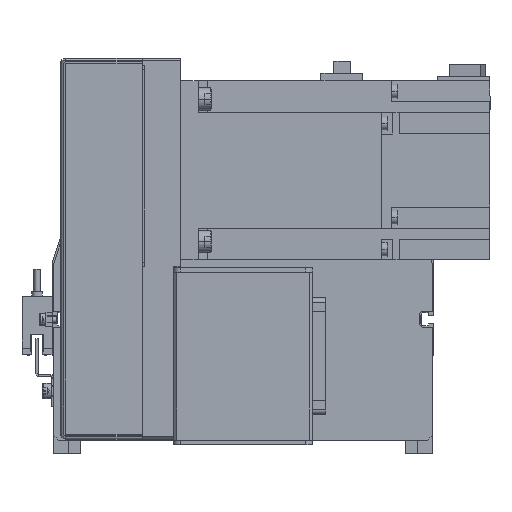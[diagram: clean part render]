
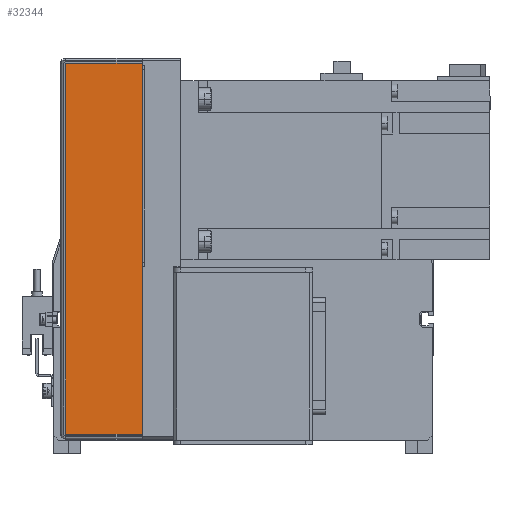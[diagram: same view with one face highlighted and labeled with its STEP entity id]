
A CAD part, front view. The second image highlights one B-rep face of the part: STEP entity #32344.
In plain terms, the highlighted planar face has unit normal (0, -1, 0).
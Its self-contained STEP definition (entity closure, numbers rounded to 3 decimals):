
#416 = VECTOR ( 'NONE', #3835, 1000. ) ;
#3835 = DIRECTION ( 'NONE',  ( 1., 0., 0. ) ) ;
#4789 = CARTESIAN_POINT ( 'NONE',  ( 14.931, -45.778, 213.5 ) ) ;
#5332 = EDGE_CURVE ( 'NONE', #20183, #22448, #8931, .T. ) ;
#5825 = AXIS2_PLACEMENT_3D ( 'NONE', #4789, #33445, #39454 ) ;
#8931 = LINE ( 'NONE', #36271, #25333 ) ;
#10144 = LINE ( 'NONE', #19870, #34940 ) ;
#15969 = EDGE_CURVE ( 'NONE', #18842, #17067, #39109, .T. ) ;
#17067 = VERTEX_POINT ( 'NONE', #24412 ) ;
#18842 = VERTEX_POINT ( 'NONE', #34527 ) ;
#19103 = ORIENTED_EDGE ( 'NONE', *, *, #15969, .F. ) ;
#19467 = ORIENTED_EDGE ( 'NONE', *, *, #37424, .F. ) ;
#19870 = CARTESIAN_POINT ( 'NONE',  ( 14.931, -45.778, 177. ) ) ;
#20183 = VERTEX_POINT ( 'NONE', #30752 ) ;
#20277 = VECTOR ( 'NONE', #28630, 1000. ) ;
#20768 = FACE_OUTER_BOUND ( 'NONE', #28378, .T. ) ;
#22448 = VERTEX_POINT ( 'NONE', #39178 ) ;
#22552 = CARTESIAN_POINT ( 'NONE',  ( 97.724, -45.778, 212. ) ) ;
#23121 = DIRECTION ( 'NONE',  ( 0., 0., -1. ) ) ;
#24412 = CARTESIAN_POINT ( 'NONE',  ( 97.724, -45.778, 177. ) ) ;
#25333 = VECTOR ( 'NONE', #23121, 1000. ) ;
#27519 = ORIENTED_EDGE ( 'NONE', *, *, #33615, .T. ) ;
#28378 = EDGE_LOOP ( 'NONE', ( #19103, #19467, #30947, #27519 ) ) ;
#28630 = DIRECTION ( 'NONE',  ( 0., 0., -1. ) ) ;
#29989 = PLANE ( 'NONE',  #5825 ) ;
#30752 = CARTESIAN_POINT ( 'NONE',  ( -67.862, -45.778, 211.263 ) ) ;
#30947 = ORIENTED_EDGE ( 'NONE', *, *, #5332, .T. ) ;
#32247 = CARTESIAN_POINT ( 'NONE',  ( 99.931, -45.778, 211.263 ) ) ;
#32344 = ADVANCED_FACE ( 'NONE', ( #20768 ), #29989, .F. ) ;
#33445 = DIRECTION ( 'NONE',  ( 0., 1., 0. ) ) ;
#33615 = EDGE_CURVE ( 'NONE', #22448, #17067, #10144, .T. ) ;
#34527 = CARTESIAN_POINT ( 'NONE',  ( 97.724, -45.778, 211.263 ) ) ;
#34940 = VECTOR ( 'NONE', #38717, 1000. ) ;
#36271 = CARTESIAN_POINT ( 'NONE',  ( -67.862, -45.778, 213.5 ) ) ;
#37424 = EDGE_CURVE ( 'NONE', #20183, #18842, #41129, .T. ) ;
#38717 = DIRECTION ( 'NONE',  ( 1., 0., 0. ) ) ;
#39109 = LINE ( 'NONE', #22552, #20277 ) ;
#39178 = CARTESIAN_POINT ( 'NONE',  ( -67.862, -45.778, 177. ) ) ;
#39454 = DIRECTION ( 'NONE',  ( 0., 0., 1. ) ) ;
#41129 = LINE ( 'NONE', #32247, #416 ) ;
